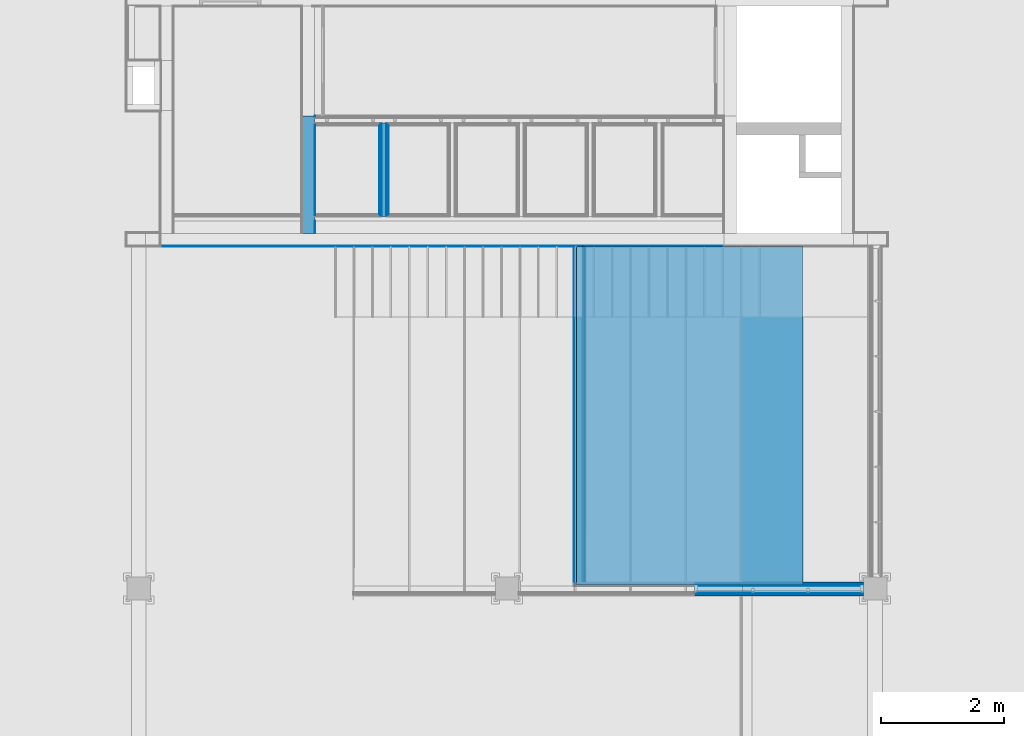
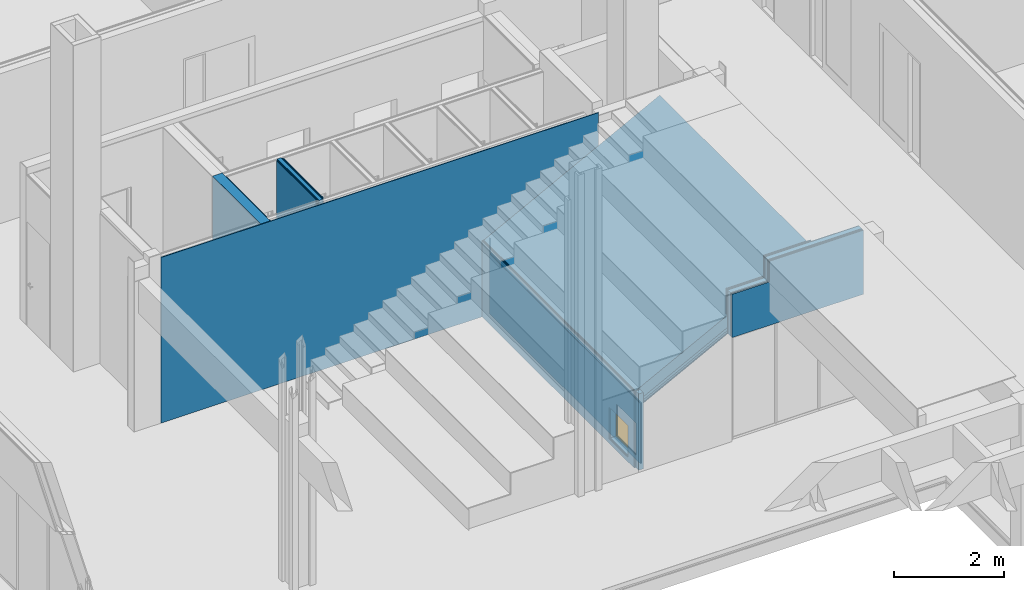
# One storey, part 94 of 139: 32 building element parts, 1 door, 1 opening, 6 elements without a shape of their own.
"""IFC2X3 building model written with IfcOpenShell, lengths in millimetres."""

from ifc_helpers import new_model, entity, si_unit, converted_unit, derived_unit, money_unit, direction, frame, origin_with_axes, place, context, subcontext, project, spatial, faceted_brep, material, type_object, element, fill, aggregate, save


model = new_model("IFC2X3")

# Units and contexts
model_context = context("Model", 3, precision=0.01, world=origin_with_axes(), true_north=direction((0.0, 1.0)))
body_context = subcontext(model_context, "Body", "Model", "MODEL_VIEW")
ifc_project = project(units=[si_unit("LENGTHUNIT", "METRE", prefix="MILLI"), si_unit("AREAUNIT", "SQUARE_METRE"), si_unit("VOLUMEUNIT", "CUBIC_METRE"), converted_unit("PLANEANGLEUNIT", "DEGREE", entity("IfcPlaneAngleMeasure", 0.0174532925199), si_unit("PLANEANGLEUNIT", "RADIAN"), dimensions=[0, 0, 0, 0, 0, 0, 0]), money_unit("EUR"), converted_unit("TIMEUNIT", "Year", entity("IfcTimeMeasure", 31556926.0), si_unit("TIMEUNIT", "SECOND"), dimensions=[0, 0, 1, 0, 0, 0, 0]), si_unit("MASSUNIT", "GRAM", prefix="KILO"), si_unit("THERMODYNAMICTEMPERATUREUNIT", "DEGREE_CELSIUS"), si_unit("LUMINOUSINTENSITYUNIT", "LUMEN"), si_unit("ENERGYUNIT", "JOULE", prefix="MEGA"), derived_unit("THERMALCONDUCTANCEUNIT", [(si_unit("POWERUNIT", "WATT"), 1), (si_unit("LENGTHUNIT", "METRE"), -1), (si_unit("THERMODYNAMICTEMPERATUREUNIT", "KELVIN"), -1)]), derived_unit("SPECIFICHEATCAPACITYUNIT", [(si_unit("ENERGYUNIT", "JOULE"), 1), (si_unit("MASSUNIT", "GRAM", prefix="KILO"), -1), (si_unit("THERMODYNAMICTEMPERATUREUNIT", "KELVIN"), -1)]), derived_unit("MASSDENSITYUNIT", [(si_unit("MASSUNIT", "GRAM", prefix="KILO"), 1), (si_unit("VOLUMEUNIT", "CUBIC_METRE"), -1)])], contexts=[model_context])

# Site, building, storey
site_placement = place(None, origin_with_axes())
site = spatial("IfcSite", under=ifc_project, at=site_placement, Name="Kolde pst 67a", CompositionType="ELEMENT")
building_placement = place(site_placement, origin_with_axes())
building = spatial("IfcBuilding", under=site, at=building_placement, Name="Riigigümnaasium", CompositionType="ELEMENT")
storey_placement = place(building_placement, frame((0.0, 0.0, 4600.0), z_axis=(0.0, 0.0, 1.0), x_axis=(1.0, 0.0, 0.0)))
storey = spatial("IfcBuildingStorey", under=building, at=storey_placement, Name="2. korrus", CompositionType="ELEMENT", Elevation=4600.0)

# Door
door_style = type_object("IfcDoorStyle", Name="Door 25", ConstructionType="NOTDEFINED", OperationType="SINGLE_SWING_RIGHT", ParameterTakesPrecedence=False, Sizeable=False)
wall_1_placement = place(storey_placement, frame((43329.4992509, 45669.9999598, 0.0), z_axis=(0.0, 0.0, 1.0), x_axis=(0.0, -1.0, 0.0)))
opening_placement = place(wall_1_placement, frame((4970.10676851, 0.0, 100.0), z_axis=(0.0, 0.0, 1.0), x_axis=(1.0, 0.0, 0.0)))
door_placement = place(opening_placement, frame((-350.0, 0.0, 0.0), z_axis=(0.0, 0.0, 1.0), x_axis=(1.0, 0.0, 0.0)))
door = element("IfcDoor", 1, at=door_placement, inside=storey, type_object=door_style, Name="Hooldusluuk vastavat SA osale", ObjectType="DOOR", OverallHeight=700.0, OverallWidth=700.0, context=body_context, shape_type="Brep", body=[
    faceted_brep([(30.0, 155.0, 0.0), (30.0, 155.0, 670.0), (30.0, 145.0, 670.0), (30.0, 145.0, 0.0), (18.0, 155.0, 670.0), (18.0, 155.0, 0.0), (18.0, 195.0, 670.0), (0.0, 195.0, 670.0), (0.0, 145.0, 670.0), (0.0, 145.0, 0.0), (0.0, 195.0, 0.0), (18.0, 195.0, 0.0)], [[[0, 1, 2, 3]], [[4, 1, 0, 5]], [[4, 6, 7, 8, 2, 1]], [[3, 2, 8, 9]], [[5, 0, 3, 9, 10, 11]], [[6, 4, 5, 11]], [[6, 11, 10, 7]], [[10, 9, 8, 7]]]),
    faceted_brep([(682.0, 155.0, 670.0), (670.0, 155.0, 670.0), (670.0, 145.0, 670.0), (700.0, 145.0, 670.0), (700.0, 195.0, 670.0), (682.0, 195.0, 670.0), (682.0, 155.0, 0.0), (670.0, 155.0, 0.0), (670.0, 145.0, 0.0), (700.0, 145.0, 0.0), (700.0, 195.0, 0.0), (682.0, 195.0, 0.0)], [[[0, 1, 2, 3, 4, 5]], [[1, 0, 6, 7]], [[1, 7, 8, 2]], [[3, 2, 8, 9]], [[4, 3, 9, 10]], [[11, 5, 4, 10]], [[0, 5, 11, 6]], [[6, 11, 10, 9, 8, 7]]]),
    faceted_brep([(18.0, 195.0, 682.0), (18.0, 195.0, 670.0), (0.0, 195.0, 670.0), (0.0, 195.0, 700.0), (700.0, 195.0, 700.0), (700.0, 195.0, 670.0), (682.0, 195.0, 670.0), (682.0, 195.0, 682.0), (18.0, 155.0, 682.0), (18.0, 155.0, 670.0), (30.0, 155.0, 670.0), (30.0, 145.0, 670.0), (0.0, 145.0, 670.0), (0.0, 145.0, 700.0), (700.0, 145.0, 700.0), (700.0, 145.0, 670.0), (682.0, 155.0, 670.0), (670.0, 145.0, 670.0), (670.0, 155.0, 670.0), (682.0, 155.0, 682.0)], [[[0, 1, 2, 3, 4, 5, 6, 7]], [[1, 0, 8, 9]], [[9, 10, 11, 12, 2, 1]], [[2, 12, 13, 3]], [[3, 13, 14, 4]], [[4, 14, 15, 5]], [[16, 6, 5, 15, 17, 18]], [[7, 6, 16, 19]], [[0, 7, 19, 8]], [[16, 18, 10, 9, 8, 19]], [[10, 18, 17, 11]], [[17, 15, 14, 13, 12, 11]]]),
    faceted_brep([(682.0, 195.0, 0.0), (682.0, 155.0, 0.0), (18.0, 155.0, 0.0), (18.0, 195.0, 0.0), (682.0, 195.0, 682.0), (682.0, 155.0, 682.0), (18.0, 155.0, 682.0), (18.0, 195.0, 682.0)], [[[0, 1, 2, 3]], [[4, 5, 1, 0]], [[1, 5, 6, 2]], [[3, 2, 6, 7]], [[0, 3, 7, 4]], [[7, 6, 5, 4]]]),
])

# Wall, opening
wall_type_1 = type_object("IfcWallType", Name="SS-PK-10/3_vill100+dold+värv 195", PredefinedType="NOTDEFINED")
wall_1 = element("IfcWall", 2, at=wall_1_placement, inside=storey, type_object=wall_type_1, Name="Sisesein")
opening = element("IfcOpeningElement", 3, at=opening_placement, cuts=wall_1, Name="Hooldusluuk vastavat SA osale", context=body_context, shape_type="Brep", body=[
    faceted_brep([(350.0, -195.0, 700.0), (350.0, -195.0, 0.0), (350.0, 390.0, 0.0), (350.0, 390.0, 700.0), (-350.0, -195.0, 700.0), (-350.0, -195.0, 0.0), (-350.0, 390.0, 0.0), (-350.0, 390.0, 700.0)], [[[0, 1, 2, 3]], [[0, 4, 5, 1]], [[1, 5, 6, 2]], [[3, 2, 6, 7]], [[4, 0, 3, 7]], [[5, 4, 7, 6]]]),
])

fill(opening, door)

# Building element part
ifc_material_1 = material(Name="_VIIMISTLUSKIHT - viimistlus vastavalt SA osale")
building_element_part_1_placement = place(wall_1_placement, origin_with_axes())
building_element_part_1 = element("IfcBuildingElementPart", 4, at=building_element_part_1_placement, material=ifc_material_1, Name="_VIIMISTLUSKIHT - viimistlus vastavalt SA osale", context=body_context, shape_type="Brep", body=[
    faceted_brep([(15.0000064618, 175.0, 1342.37595131), (15.0000064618, 195.0, 1352.79616712), (15.0, 195.0, 0.0), (15.0, 175.0, 0.0), (5480.00004217, 195.0, 1352.79616712), (5480.00004217, 175.0, 1342.37595131), (5480.00004217, 195.0, 0.0), (4620.10676851, 195.0, 100.0), (5320.10676851, 195.0, 100.0), (5320.10676851, 195.0, 800.0), (4620.10676851, 195.0, 800.0), (5480.00004217, 175.0, 0.0), (5320.10676851, 175.0, 800.0), (5320.10676851, 175.0, 100.0), (4620.10676851, 175.0, 100.0), (4620.10676851, 175.0, 800.0)], [[[0, 1, 2, 3]], [[4, 1, 0, 5]], [[1, 4, 6, 2], [7, 8, 9, 10]], [[11, 3, 2, 6]], [[5, 0, 3, 11], [12, 13, 14, 15]], [[4, 5, 11, 6]], [[13, 8, 7, 14]], [[12, 9, 8, 13]], [[15, 10, 9, 12]], [[14, 7, 10, 15]]]),
])

ifc_material_2 = material(Name="_KARKASS - eriprofiilkinnitus vastavalt sisemisele plaatviimistlusele")
building_element_part_2_placement = place(wall_1_placement, origin_with_axes())
building_element_part_2 = element("IfcBuildingElementPart", 5, at=building_element_part_2_placement, material=ifc_material_2, Name="_KARKASS - eriprofiilkinnitus vastavalt sisemisele plaatviimistlusele", context=body_context, shape_type="Brep", body=[
    faceted_brep([(15.0000064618, 165.0, 1337.16584341), (15.0000065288, 165.0, 1689.50715738), (0.0, 165.0, 1689.50715738), (0.0, 165.0, 0.0), (5480.00004217, 165.0, 0.0), (5480.00004217, 165.0, 1337.16584341), (5320.10676851, 165.0, 800.0), (5320.10676851, 165.0, 100.0), (4620.10676851, 165.0, 100.0), (4620.10676851, 165.0, 800.0), (15.0000064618, 175.0, 1342.37595131), (15.0000065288, 175.0, 1689.50715738), (0.0, 175.0, 1689.50715738), (0.0, 175.0, 0.0), (5480.00004217, 175.0, 0.0), (5480.00004217, 175.0, 1342.37595131), (5320.10676851, 175.0, 800.0), (5320.10676851, 175.0, 100.0), (4620.10676851, 175.0, 100.0), (4620.10676851, 175.0, 800.0)], [[[0, 1, 2, 3, 4, 5], [6, 7, 8, 9]], [[10, 11, 1, 0]], [[1, 11, 12, 2]], [[13, 3, 2, 12]], [[4, 3, 13, 14]], [[15, 5, 4, 14]], [[15, 10, 0, 5]], [[6, 16, 17, 7]], [[7, 17, 18, 8]], [[8, 18, 19, 9]], [[9, 19, 16, 6]], [[10, 15, 14, 13, 12, 11], [18, 17, 16, 19]]]),
])

ifc_material_3 = material(Name="_PLAATMATERJAL - tuletõkkekipsplaat, Knauf Red GKF või samaväärne")
building_element_part_3_placement = place(wall_1_placement, origin_with_axes())
building_element_part_3 = element("IfcBuildingElementPart", 6, at=building_element_part_3_placement, material=ifc_material_3, Name="_PLAATMATERJAL - tuletõkkekipsplaat, Knauf Red GKF või samaväärne", context=body_context, shape_type="Brep", body=[
    faceted_brep([(15.0000064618, 150.0, 1329.35068155), (15.0000065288, 150.0, 1689.50715738), (0.0, 150.0, 1689.50715738), (0.0, 150.0, 0.0), (5480.00004217, 150.0, 0.0), (5480.00004217, 150.0, 1329.35068155), (5320.10676851, 150.0, 800.0), (5320.10676851, 150.0, 100.0), (4620.10676851, 150.0, 100.0), (4620.10676851, 150.0, 800.0), (15.0000064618, 165.0, 1337.16584341), (15.0000065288, 165.0, 1689.50715738), (0.0, 165.0, 1689.50715738), (0.0, 165.0, 0.0), (5480.00004217, 165.0, 0.0), (5480.00004217, 165.0, 1337.16584341), (5320.10676851, 165.0, 800.0), (5320.10676851, 165.0, 100.0), (4620.10676851, 165.0, 100.0), (4620.10676851, 165.0, 800.0)], [[[0, 1, 2, 3, 4, 5], [6, 7, 8, 9]], [[10, 11, 1, 0]], [[1, 11, 12, 2]], [[13, 3, 2, 12]], [[4, 3, 13, 14]], [[15, 5, 4, 14]], [[15, 10, 0, 5]], [[6, 16, 17, 7]], [[7, 17, 18, 8]], [[8, 18, 19, 9]], [[9, 19, 16, 6]], [[10, 15, 14, 13, 12, 11], [18, 17, 16, 19]]]),
])

ifc_material_4 = material(Name="_PLAATMATERJAL - OSB3 plaat")
building_element_part_4_placement = place(wall_1_placement, origin_with_axes())
building_element_part_4 = element("IfcBuildingElementPart", 7, at=building_element_part_4_placement, material=ifc_material_4, Name="_PLAATMATERJAL - OSB3 plaat", context=body_context, shape_type="Brep", body=[
    faceted_brep([(15.0000064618, 135.0, 1321.5355197), (15.0000065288, 135.0, 1689.50715738), (0.0, 135.0, 1689.50715738), (0.0, 135.0, 0.0), (5480.00004217, 135.0, 0.0), (5480.00004217, 135.0, 1321.5355197), (5320.10676851, 135.0, 800.0), (5320.10676851, 135.0, 100.0), (4620.10676851, 135.0, 100.0), (4620.10676851, 135.0, 800.0), (15.0000064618, 150.0, 1329.35068155), (15.0000065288, 150.0, 1689.50715738), (0.0, 150.0, 1689.50715738), (0.0, 150.0, 0.0), (5480.00004217, 150.0, 0.0), (5480.00004217, 150.0, 1329.35068155), (5320.10676851, 150.0, 800.0), (5320.10676851, 150.0, 100.0), (4620.10676851, 150.0, 100.0), (4620.10676851, 150.0, 800.0)], [[[0, 1, 2, 3, 4, 5], [6, 7, 8, 9]], [[10, 11, 1, 0]], [[1, 11, 12, 2]], [[13, 3, 2, 12]], [[4, 3, 13, 14]], [[15, 5, 4, 14]], [[15, 10, 0, 5]], [[6, 16, 17, 7]], [[7, 17, 18, 8]], [[8, 18, 19, 9]], [[9, 19, 16, 6]], [[10, 15, 14, 13, 12, 11], [18, 17, 16, 19]]]),
])

ifc_material_5 = material(Name="_KARKASS - puitpruss 100x50mm vertikaalne, samm 600mm, vahel mineraalvill, helineeldetegur αw = 1.0, ISOVER ACOUSTIC 100mm või samaväärne")
building_element_part_5_placement = place(wall_1_placement, origin_with_axes())
building_element_part_5 = element("IfcBuildingElementPart", 8, at=building_element_part_5_placement, material=ifc_material_5, Name="_KARKASS - puitpruss 100x50mm vertikaalne, samm 600mm, vahel mineraalvill, helineeldetegur αw = 1.0, ISOVER ACOUSTIC 100mm või samaväärne", context=body_context, shape_type="Brep", body=[
    faceted_brep([(5525.00004256, 40.4999998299, 1272.29999991), (15.0000064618, 40.4999998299, 1272.29999991), (15.0000065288, 40.4999998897, 1689.50715738), (5525.00004242, 40.4999998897, 1689.50715738), (5525.00004256, 135.0, 1321.5355197), (15.0000064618, 135.0, 1321.5355197), (15.0000065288, 135.0, 1689.50715738), (0.0, 135.0, 1689.50715738), (0.0, 35.0, 1689.50715738), (5640.00004217, 35.0, 1689.50715738), (5640.00004217, 135.0, 1689.50715738), (5525.00004242, 135.0, 1689.50715738), (5640.00004217, 135.0, 0.0), (0.0, 135.0, 0.0), (4620.10676851, 135.0, 100.0), (5320.10676851, 135.0, 100.0), (5320.10676851, 135.0, 800.0), (4620.10676851, 135.0, 800.0), (0.0, 35.0, 0.0), (5640.00004217, 35.0, 0.0), (5320.10676851, 35.0, 800.0), (5320.10676851, 35.0, 100.0), (4620.10676851, 35.0, 100.0), (4620.10676851, 35.0, 800.0)], [[[0, 1, 2, 3]], [[4, 5, 1, 0]], [[5, 6, 2, 1]], [[3, 2, 6, 7, 8, 9, 10, 11]], [[4, 0, 3, 11]], [[4, 11, 10, 12, 13, 7, 6, 5], [14, 15, 16, 17]], [[7, 13, 18, 8]], [[19, 9, 8, 18], [20, 21, 22, 23]], [[19, 12, 10, 9]], [[12, 19, 18, 13]], [[21, 15, 14, 22]], [[20, 16, 15, 21]], [[23, 17, 16, 20]], [[22, 14, 17, 23]]]),
])

building_element_part_6_placement = place(wall_1_placement, origin_with_axes())
building_element_part_6 = element("IfcBuildingElementPart", 9, at=building_element_part_6_placement, material=ifc_material_4, Name="_PLAATMATERJAL - OSB3 plaat", context=body_context, shape_type="Brep", body=[
    faceted_brep([(5540.00004486, 20.0, 1689.50715738), (0.0, 20.0, 1689.50715738), (0.0, 20.0, 0.0), (5540.00004217, 20.0, 0.0), (5320.10676851, 20.0, 100.0), (4620.10676851, 20.0, 100.0), (4620.10676851, 20.0, 800.0), (5320.10676851, 20.0, 800.0), (5540.00004487, 35.0, 1689.50715738), (0.0, 35.0, 1689.50715738), (0.0, 35.0, 0.0), (5540.00004217, 35.0, 0.0), (5320.10676851, 35.0, 100.0), (4620.10676851, 35.0, 100.0), (4620.10676851, 35.0, 800.0), (5320.10676851, 35.0, 800.0)], [[[0, 1, 2, 3], [4, 5, 6, 7]], [[8, 9, 1, 0]], [[10, 2, 1, 9]], [[3, 2, 10, 11]], [[8, 0, 3, 11]], [[12, 13, 5, 4]], [[13, 14, 6, 5]], [[14, 15, 7, 6]], [[15, 12, 4, 7]], [[11, 10, 9, 8], [12, 15, 14, 13]]]),
])

building_element_part_7_placement = place(wall_1_placement, origin_with_axes())
building_element_part_7 = element("IfcBuildingElementPart", 10, at=building_element_part_7_placement, material=ifc_material_3, Name="_PLAATMATERJAL - tuletõkkekipsplaat, Knauf Red GKF või samaväärne", context=body_context, shape_type="Brep", body=[
    faceted_brep([(5540.00004485, 5.0, 1689.50715738), (0.0, 5.0, 1689.50715738), (0.0, 5.0, 0.0), (5540.00004217, 5.0, 0.0), (5320.10676851, 5.0, 100.0), (4620.10676851, 5.0, 100.0), (4620.10676851, 5.0, 800.0), (5320.10676851, 5.0, 800.0), (5540.00004486, 20.0, 1689.50715738), (0.0, 20.0, 1689.50715738), (0.0, 20.0, 0.0), (5540.00004217, 20.0, 0.0), (5320.10676851, 20.0, 100.0), (4620.10676851, 20.0, 100.0), (4620.10676851, 20.0, 800.0), (5320.10676851, 20.0, 800.0)], [[[0, 1, 2, 3], [4, 5, 6, 7]], [[8, 9, 1, 0]], [[10, 2, 1, 9]], [[3, 2, 10, 11]], [[8, 0, 3, 11]], [[12, 13, 5, 4]], [[13, 14, 6, 5]], [[14, 15, 7, 6]], [[15, 12, 4, 7]], [[11, 10, 9, 8], [12, 15, 14, 13]]]),
])

building_element_part_8_placement = place(wall_1_placement, origin_with_axes())
building_element_part_8 = element("IfcBuildingElementPart", 11, at=building_element_part_8_placement, material=ifc_material_1, Name="_VIIMISTLUSKIHT - viimistlus vastavalt SA osale", context=body_context, shape_type="Brep", body=[
    faceted_brep([(5540.00004485, 0.0, 1689.50715738), (15.0, 0.0, 1689.50715738), (15.0, 0.0, 0.0), (5540.00004217, 0.0, 0.0), (5320.10676851, 0.0, 100.0), (4620.10676851, 0.0, 100.0), (4620.10676851, 0.0, 800.0), (5320.10676851, 0.0, 800.0), (5540.00004485, 5.0, 1689.50715738), (15.0, 5.0, 1689.50715738), (15.0, 5.0, 0.0), (5540.00004217, 5.0, 0.0), (5320.10676851, 5.0, 100.0), (4620.10676851, 5.0, 100.0), (4620.10676851, 5.0, 800.0), (5320.10676851, 5.0, 800.0)], [[[0, 1, 2, 3], [4, 5, 6, 7]], [[8, 9, 1, 0]], [[10, 2, 1, 9]], [[3, 2, 10, 11]], [[8, 0, 3, 11]], [[12, 13, 5, 4]], [[13, 14, 6, 5]], [[14, 15, 7, 6]], [[15, 12, 4, 7]], [[11, 10, 9, 8], [12, 15, 14, 13]]]),
])

aggregate(wall_1, [building_element_part_1, building_element_part_2, building_element_part_3, building_element_part_4, building_element_part_5, building_element_part_6, building_element_part_7, building_element_part_8])

# Wall, building element part
wall_type_2 = type_object("IfcWallType", Name="SS-RB-20/5_+1 plaat 215", PredefinedType="NOTDEFINED")
wall_2_placement = place(storey_placement, frame((45774.9854607, 45669.9999598, -80.0), z_axis=(0.0, 0.0, 1.0), x_axis=(-1.0, 0.0, 0.0)))
wall_2 = element("IfcWall", 12, at=wall_2_placement, inside=storey, type_object=wall_type_2, Name="Sisesein")
building_element_part_9_placement = place(wall_2_placement, origin_with_axes())
building_element_part_9 = element("IfcBuildingElementPart", 13, at=building_element_part_9_placement, material=ifc_material_1, Name="_VIIMISTLUSKIHT - viimistlus vastavalt SA osale", context=body_context, shape_type="Brep", body=[
    faceted_brep([(9169.98623068, 0.0, 80.0), (9169.98623068, 0.0, 3750.0), (0.0, 0.0, 3750.0), (0.0, 0.0, 80.0), (2270.48620982, 0.0, 80.0), (2270.48620982, 0.0, 1769.50715738), (2440.48620982, 0.0, 1769.50715738), (2440.48620982, 0.0, 80.0), (9169.98623068, 15.0, 80.0), (9169.98623068, 15.0, 3750.0), (0.0, 15.0, 3750.0), (0.0, 15.0, 80.0), (2270.48620982, 15.0, 80.0), (2270.48620982, 15.0, 1769.50715738), (2440.48620982, 15.0, 1769.50715738), (2440.48620982, 15.0, 80.0)], [[[0, 1, 2, 3, 4, 5, 6, 7]], [[8, 9, 1, 0]], [[9, 10, 2, 1]], [[3, 2, 10, 11]], [[12, 4, 3, 11]], [[5, 4, 12, 13]], [[6, 5, 13, 14]], [[14, 15, 7, 6]], [[8, 0, 7, 15]], [[11, 10, 9, 8, 15, 14, 13, 12]]]),
])
aggregate(wall_2, [building_element_part_9])

# Wall, building element parts
wall_type_3 = type_object("IfcWallType", Name="SS-MK-7,5/1_plaaditud 155", PredefinedType="NOTDEFINED")
wall_3_placement = place(storey_placement, frame((40159.9854607, 46179.9999966, 0.0), z_axis=(0.0, 0.0, 1.0), x_axis=(0.0, 1.0, 0.0)))
wall_3 = element("IfcWall", 14, at=wall_3_placement, inside=storey, type_object=wall_type_3, Name="Sisesein")
building_element_part_10_placement = place(wall_3_placement, origin_with_axes())
building_element_part_10 = element("IfcBuildingElementPart", 15, at=building_element_part_10_placement, material=ifc_material_1, Name="_VIIMISTLUSKIHT - viimistlus vastavalt SA osale", context=body_context, shape_type="Brep", body=[
    faceted_brep([(1443.49996421, 0.0, 3380.0), (1443.49996421, -15.0, 3380.0), (1443.49996421, -15.0, 0.0), (1443.49996421, 0.0, 0.0), (0.0, -15.0, 3380.0), (0.0, 0.0, 3380.0), (0.0, -15.0, 0.0), (0.0, 0.0, 0.0)], [[[0, 1, 2, 3]], [[4, 1, 0, 5]], [[1, 4, 6, 2]], [[3, 2, 6, 7]], [[5, 0, 3, 7]], [[4, 5, 7, 6]]]),
])
ifc_material_6 = material(Name="_PLAATMATERJAL - kipsplaat veekindel")
building_element_part_11_placement = place(wall_3_placement, origin_with_axes())
building_element_part_11 = element("IfcBuildingElementPart", 16, at=building_element_part_11_placement, material=ifc_material_6, Name="_PLAATMATERJAL - kipsplaat veekindel", context=body_context, shape_type="Brep", body=[
    faceted_brep([(1458.49996421, -15.0, 3380.0), (1458.49996421, -27.5, 3380.0), (1458.49996421, -27.5, 0.0), (1458.49996421, -15.0, 0.0), (-15.0, -27.5, 3380.0), (-15.0, -15.0, 3380.0), (-15.0, -27.5, 0.0), (-15.0, -15.0, 0.0)], [[[0, 1, 2, 3]], [[4, 1, 0, 5]], [[1, 4, 6, 2]], [[3, 2, 6, 7]], [[5, 0, 3, 7]], [[4, 5, 7, 6]]]),
])
building_element_part_12_placement = place(wall_3_placement, origin_with_axes())
building_element_part_12 = element("IfcBuildingElementPart", 17, at=building_element_part_12_placement, material=ifc_material_6, Name="_PLAATMATERJAL - kipsplaat veekindel", context=body_context, shape_type="Brep", body=[
    faceted_brep([(1470.99996421, -27.5, 3380.0), (1470.99996421, -40.0, 3380.0), (1470.99996421, -40.0, 0.0), (1470.99996421, -27.5, 0.0), (-27.5, -40.0, 3380.0), (-27.5, -27.5, 3380.0), (-27.5, -40.0, 0.0), (-27.5, -27.5, 0.0)], [[[0, 1, 2, 3]], [[4, 1, 0, 5]], [[1, 4, 6, 2]], [[3, 2, 6, 7]], [[5, 0, 3, 7]], [[4, 5, 7, 6]]]),
])
ifc_material_7 = material(Name="_KARKASS - metallkarkass CW 75/50, mineraalvill karkassi vahel")
building_element_part_13_placement = place(wall_3_placement, origin_with_axes())
building_element_part_13 = element("IfcBuildingElementPart", 18, at=building_element_part_13_placement, material=ifc_material_7, Name="_KARKASS - metallkarkass CW 75/50, mineraalvill karkassi vahel", context=body_context, shape_type="Brep", body=[
    faceted_brep([(1483.49996421, -40.0, 3380.0), (1483.49996421, -115.0, 3380.0), (1483.49996421, -115.0, 0.0), (1483.49996421, -40.0, 0.0), (-40.0, -115.0, 3380.0), (-40.0, -40.0, 3380.0), (-40.0, -115.0, 0.0), (-40.0, -40.0, 0.0)], [[[0, 1, 2, 3]], [[4, 1, 0, 5]], [[1, 4, 6, 2]], [[3, 2, 6, 7]], [[5, 0, 3, 7]], [[4, 5, 7, 6]]]),
])
building_element_part_14_placement = place(wall_3_placement, origin_with_axes())
building_element_part_14 = element("IfcBuildingElementPart", 19, at=building_element_part_14_placement, material=ifc_material_6, Name="_PLAATMATERJAL - kipsplaat veekindel", context=body_context, shape_type="Brep", body=[
    faceted_brep([(1470.99996421, -115.0, 3380.0), (1470.99996421, -127.5, 3380.0), (1470.99996421, -127.5, 0.0), (1470.99996421, -115.0, 0.0), (-27.5, -127.5, 3380.0), (-27.5, -115.0, 3380.0), (-27.5, -127.5, 0.0), (-27.5, -115.0, 0.0)], [[[0, 1, 2, 3]], [[4, 1, 0, 5]], [[1, 4, 6, 2]], [[3, 2, 6, 7]], [[5, 0, 3, 7]], [[4, 5, 7, 6]]]),
])
building_element_part_15_placement = place(wall_3_placement, origin_with_axes())
building_element_part_15 = element("IfcBuildingElementPart", 20, at=building_element_part_15_placement, material=ifc_material_6, Name="_PLAATMATERJAL - kipsplaat veekindel", context=body_context, shape_type="Brep", body=[
    faceted_brep([(1458.49996421, -127.5, 3380.0), (1458.49996421, -140.0, 3380.0), (1458.49996421, -140.0, 0.0), (1458.49996421, -127.5, 0.0), (-15.0, -140.0, 3380.0), (-15.0, -127.5, 3380.0), (-15.0, -140.0, 0.0), (-15.0, -127.5, 0.0)], [[[0, 1, 2, 3]], [[4, 1, 0, 5]], [[1, 4, 6, 2]], [[3, 2, 6, 7]], [[5, 0, 3, 7]], [[4, 5, 7, 6]]]),
])
building_element_part_16_placement = place(wall_3_placement, origin_with_axes())
building_element_part_16 = element("IfcBuildingElementPart", 21, at=building_element_part_16_placement, material=ifc_material_1, Name="_VIIMISTLUSKIHT - viimistlus vastavalt SA osale", context=body_context, shape_type="Brep", body=[
    faceted_brep([(1443.49996421, -140.0, 3380.0), (1443.49996421, -155.0, 3380.0), (1443.49996421, -155.0, 0.0), (1443.49996421, -140.0, 0.0), (0.0, -155.0, 3380.0), (0.0, -140.0, 3380.0), (0.0, -155.0, 0.0), (0.0, -140.0, 0.0)], [[[0, 1, 2, 3]], [[4, 1, 0, 5]], [[1, 4, 6, 2]], [[3, 2, 6, 7]], [[5, 0, 3, 7]], [[4, 5, 7, 6]]]),
])
aggregate(wall_3, [building_element_part_10, building_element_part_11, building_element_part_12, building_element_part_13, building_element_part_14, building_element_part_15, building_element_part_16])

wall_type_4 = type_object("IfcWallType", Name="SS-PK-10/1_vill100+2dold 220", PredefinedType="NOTDEFINED")
wall_4_placement = place(storey_placement, frame((48039.9854607, 39969.9999211, 2300.0), z_axis=(0.0, 0.0, 1.0), x_axis=(-1.0, 0.0, 0.0)))
wall_4 = element("IfcWall", 22, at=wall_4_placement, inside=storey, type_object=wall_type_4, Name="Sisesein")
ifc_material_8 = material(Name="_VIIMISTLUSKIHT - Dold plaat vastavalt SA osale")
building_element_part_17_placement = place(wall_4_placement, origin_with_axes())
building_element_part_17 = element("IfcBuildingElementPart", 23, at=building_element_part_17_placement, material=ifc_material_8, Name="_VIIMISTLUSKIHT - Dold plaat vastavalt SA osale", context=body_context, shape_type="Brep", body=[
    faceted_brep([(2750.0, -20.0, 961.25), (1969.98621024, -20.0, 961.25), (1969.98621024, -20.0, 1420.0), (0.0, -20.0, 1420.0), (0.0, -20.0, 0.0), (2750.0, -20.0, 0.0), (2750.0, 1.98313188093e-06, 961.25), (1969.98621024, -1.44940059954e-06, 961.25), (1969.98621024, -1.44940059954e-06, 1420.0), (0.0, 0.0, 1420.0), (0.0, 0.0, 0.0), (2750.0, 0.0, 0.0)], [[[0, 1, 2, 3, 4, 5]], [[1, 0, 6, 7]], [[8, 2, 1, 7]], [[2, 8, 9, 3]], [[4, 3, 9, 10]], [[10, 11, 5, 4]], [[6, 0, 5, 11]], [[7, 6, 11, 10, 9, 8]]]),
])
building_element_part_18_placement = place(wall_4_placement, origin_with_axes())
building_element_part_18 = element("IfcBuildingElementPart", 24, at=building_element_part_18_placement, material=ifc_material_2, Name="_KARKASS - eriprofiilkinnitus vastavalt sisemisele plaatviimistlusele", context=body_context, shape_type="Brep", body=[
    faceted_brep([(2750.0, -30.0, 961.25), (1969.98621024, -30.0, 961.25), (1969.98621024, -30.0, 1420.0), (0.0, -30.0, 1420.0), (0.0, -30.0, 0.0), (2750.0, -30.0, 0.0), (2750.0, -20.0, 961.25), (1969.98621024, -20.0, 961.25), (1969.98621024, -20.0, 1420.0), (0.0, -20.0, 1420.0), (0.0, -20.0, 0.0), (2750.0, -20.0, 0.0)], [[[0, 1, 2, 3, 4, 5]], [[1, 0, 6, 7]], [[8, 2, 1, 7]], [[2, 8, 9, 3]], [[4, 3, 9, 10]], [[10, 11, 5, 4]], [[6, 0, 5, 11]], [[7, 6, 11, 10, 9, 8]]]),
])
building_element_part_19_placement = place(wall_4_placement, origin_with_axes())
building_element_part_19 = element("IfcBuildingElementPart", 25, at=building_element_part_19_placement, material=ifc_material_3, Name="_PLAATMATERJAL - tuletõkkekipsplaat, Knauf Red GKF või samaväärne", context=body_context, shape_type="Brep", body=[
    faceted_brep([(2750.0, -45.0, 961.25), (1969.98621024, -45.0, 961.25), (1969.98621024, -45.0, 1420.0), (0.0, -45.0, 1420.0), (0.0, -45.0, 0.0), (2750.0, -45.0, 0.0), (2750.0, -30.0, 961.25), (1969.98621024, -30.0, 961.25), (1969.98621024, -30.0, 1420.0), (0.0, -30.0, 1420.0), (0.0, -30.0, 0.0), (2750.0, -30.0, 0.0)], [[[0, 1, 2, 3, 4, 5]], [[1, 0, 6, 7]], [[8, 2, 1, 7]], [[2, 8, 9, 3]], [[4, 3, 9, 10]], [[10, 11, 5, 4]], [[6, 0, 5, 11]], [[7, 6, 11, 10, 9, 8]]]),
])
building_element_part_20_placement = place(wall_4_placement, origin_with_axes())
building_element_part_20 = element("IfcBuildingElementPart", 26, at=building_element_part_20_placement, material=ifc_material_3, Name="_PLAATMATERJAL - tuletõkkekipsplaat, Knauf Red GKF või samaväärne", context=body_context, shape_type="Brep", body=[
    faceted_brep([(2750.0, -60.0, 961.25), (1969.98621024, -60.0, 961.25), (1969.98621024, -60.0, 1420.0), (0.0, -60.0, 1420.0), (0.0, -60.0, 0.0), (2750.0, -60.0, 0.0), (2750.0, -45.0, 961.25), (1969.98621024, -45.0, 961.25), (1969.98621024, -45.0, 1420.0), (0.0, -45.0, 1420.0), (0.0, -45.0, 0.0), (2750.0, -45.0, 0.0)], [[[0, 1, 2, 3, 4, 5]], [[1, 0, 6, 7]], [[8, 2, 1, 7]], [[2, 8, 9, 3]], [[4, 3, 9, 10]], [[10, 11, 5, 4]], [[6, 0, 5, 11]], [[7, 6, 11, 10, 9, 8]]]),
])
building_element_part_21_placement = place(wall_4_placement, origin_with_axes())
building_element_part_21 = element("IfcBuildingElementPart", 27, at=building_element_part_21_placement, material=ifc_material_5, Name="_KARKASS - puitpruss 100x50mm vertikaalne, samm 600mm, vahel mineraalvill, helineeldetegur αw = 1.0, ISOVER ACOUSTIC 100mm või samaväärne", context=body_context, shape_type="Brep", body=[
    faceted_brep([(2750.0, -160.0, 961.25), (1969.98621024, -160.0, 961.25), (1969.98621024, -160.0, 1420.0), (0.0, -160.0, 1420.0), (0.0, -160.0, 0.0), (2750.0, -160.0, 0.0), (2750.0, -60.0, 961.25), (1969.98621024, -60.0, 961.25), (1969.98621024, -60.0, 1420.0), (0.0, -60.0, 1420.0), (0.0, -60.0, 0.0), (2750.0, -60.0, 0.0)], [[[0, 1, 2, 3, 4, 5]], [[1, 0, 6, 7]], [[8, 2, 1, 7]], [[2, 8, 9, 3]], [[4, 3, 9, 10]], [[10, 11, 5, 4]], [[6, 0, 5, 11]], [[7, 6, 11, 10, 9, 8]]]),
])
building_element_part_22_placement = place(wall_4_placement, origin_with_axes())
building_element_part_22 = element("IfcBuildingElementPart", 28, at=building_element_part_22_placement, material=ifc_material_3, Name="_PLAATMATERJAL - tuletõkkekipsplaat, Knauf Red GKF või samaväärne", context=body_context, shape_type="Brep", body=[
    faceted_brep([(2750.0, -175.0, 961.25), (1969.98621024, -175.0, 961.25), (1969.98621024, -175.0, 1420.0), (0.0, -175.0, 1420.0), (0.0, -175.0, 0.0), (2750.0, -175.0, 0.0), (2750.0, -160.0, 961.25), (1969.98621024, -160.0, 961.25), (1969.98621024, -160.0, 1420.0), (0.0, -160.0, 1420.0), (0.0, -160.0, 0.0), (2750.0, -160.0, 0.0)], [[[0, 1, 2, 3, 4, 5]], [[1, 0, 6, 7]], [[8, 2, 1, 7]], [[2, 8, 9, 3]], [[10, 4, 3, 9]], [[4, 10, 11, 5]], [[6, 0, 5, 11]], [[7, 6, 11, 10, 9, 8]]]),
])
building_element_part_23_placement = place(wall_4_placement, origin_with_axes())
building_element_part_23 = element("IfcBuildingElementPart", 29, at=building_element_part_23_placement, material=ifc_material_3, Name="_PLAATMATERJAL - tuletõkkekipsplaat, Knauf Red GKF või samaväärne", context=body_context, shape_type="Brep", body=[
    faceted_brep([(2750.0, -190.0, 961.25), (1969.98621024, -190.0, 961.25), (1969.98621024, -190.0, 1420.0), (984.760224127, -190.0, 1420.0), (984.760224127, -190.0, 1265.0), (0.0, -190.0, 1265.0), (0.0, -190.0, 0.0), (2750.0, -190.0, 0.0), (2750.0, -175.0, 961.25), (1969.98621024, -174.999996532, 961.25), (1969.98621024, -174.999998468, 1420.0), (984.760224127, -174.999996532, 1420.0), (984.760224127, -174.999996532, 1265.0), (0.0, -174.999996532, 1265.0), (0.0, -175.0, 0.0), (2750.0, -175.0, 0.0)], [[[0, 1, 2, 3, 4, 5, 6, 7]], [[1, 0, 8, 9]], [[10, 2, 1, 9]], [[2, 10, 11, 3]], [[11, 12, 4, 3]], [[12, 13, 5, 4]], [[6, 5, 13, 14]], [[6, 14, 15, 7]], [[8, 0, 7, 15]], [[9, 8, 15, 14, 13, 12, 11, 10]]]),
])
building_element_part_24_placement = place(wall_4_placement, origin_with_axes())
building_element_part_24 = element("IfcBuildingElementPart", 30, at=building_element_part_24_placement, material=ifc_material_2, Name="_KARKASS - eriprofiilkinnitus vastavalt sisemisele plaatviimistlusele", context=body_context, shape_type="Brep", body=[
    faceted_brep([(2750.0, -200.0, 961.25), (1969.98621024, -200.0, 961.25), (1969.98621024, -200.0, 1420.0), (984.760224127, -200.0, 1420.0), (984.760224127, -200.0, 1265.0), (0.0, -200.0, 1265.0), (0.0, -200.0, 0.0), (2750.0, -200.0, 0.0), (2750.0, -190.0, 961.25), (1969.98621024, -190.0, 961.25), (1969.98621024, -190.0, 1420.0), (984.760224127, -190.0, 1420.0), (984.760224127, -190.0, 1265.0), (0.0, -190.0, 1265.0), (0.0, -190.0, 0.0), (2750.0, -190.0, 0.0)], [[[0, 1, 2, 3, 4, 5, 6, 7]], [[1, 0, 8, 9]], [[10, 2, 1, 9]], [[2, 10, 11, 3]], [[11, 12, 4, 3]], [[12, 13, 5, 4]], [[6, 5, 13, 14]], [[6, 14, 15, 7]], [[8, 0, 7, 15]], [[9, 8, 15, 14, 13, 12, 11, 10]]]),
])
building_element_part_25_placement = place(wall_4_placement, origin_with_axes())
building_element_part_25 = element("IfcBuildingElementPart", 31, at=building_element_part_25_placement, material=ifc_material_8, Name="_VIIMISTLUSKIHT - Dold plaat vastavalt SA osale", context=body_context, shape_type="Brep", body=[
    faceted_brep([(2750.0, -220.0, 961.25), (1969.98621024, -220.0, 961.25), (1969.98621024, -220.0, 1420.0), (984.760224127, -220.0, 1420.0), (984.760224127, -220.0, 1265.0), (0.0, -220.0, 1265.0), (0.0, -220.0, 0.0), (2750.0, -220.0, 0.0), (2750.0, -200.0, 961.25), (1969.98621024, -200.0, 961.25), (1969.98621024, -200.0, 1420.0), (984.760224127, -200.0, 1420.0), (984.760224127, -200.0, 1265.0), (0.0, -200.0, 1265.0), (0.0, -200.0, 0.0), (2750.0, -200.0, 0.0)], [[[0, 1, 2, 3, 4, 5, 6, 7]], [[1, 0, 8, 9]], [[10, 2, 1, 9]], [[2, 10, 11, 3]], [[11, 12, 4, 3]], [[12, 13, 5, 4]], [[6, 5, 13, 14]], [[6, 14, 15, 7]], [[8, 0, 7, 15]], [[9, 8, 15, 14, 13, 12, 11, 10]]]),
])
aggregate(wall_4, [building_element_part_17, building_element_part_18, building_element_part_19, building_element_part_20, building_element_part_21, building_element_part_22, building_element_part_23, building_element_part_24, building_element_part_25])

# Slab, building element parts
slab_type = type_object("IfcSlabType", Name="VL-MK-24/1_ 2. k astmestiku lagi 370", PredefinedType="ROOF")
slab_placement = place(storey_placement, frame((43369.9992509, 44114.5650163, 1272.3), z_axis=(0.0, 0.0, 1.0), x_axis=(0.0, 1.0, 0.0)))
slab = element("IfcSlab", 32, at=slab_placement, inside=storey, type_object=slab_type, Name="Kaldlagi", PredefinedType="ROOF")
ifc_material_9 = material(Name="_SOOJUSTUS - vill")
building_element_part_26_placement = place(slab_placement, origin_with_axes())
building_element_part_26 = element("IfcBuildingElementPart", 33, at=building_element_part_26_placement, material=ifc_material_9, Name="_SOOJUSTUS - vill", context=body_context, shape_type="Brep", body=[
    faceted_brep([(-3969.56509859, 0.0, 417.207157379), (-3969.56509859, -3685.22598569, 2337.24966109), (1540.43493693, -3685.22598569, 2337.24966109), (1540.43493693, 0.0, 417.207157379), (-3969.56509884, 1.10325970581e-07, 146.586298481), (-3969.56509884, -3685.22598592, 2066.62880236), (1540.43493705, -3685.22598592, 2066.62880236), (1540.43493705, 1.10333076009e-07, 146.586298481)], [[[0, 1, 2, 3]], [[0, 4, 5, 1]], [[1, 5, 6, 2]], [[2, 6, 7, 3]], [[3, 7, 4, 0]], [[4, 7, 6, 5]]]),
])
ifc_material_10 = material(Name="_EHITUS - akustiline riputussüsteem AMC EP 400+Sylomer 75, s 1,2m")
building_element_part_27_placement = place(slab_placement, origin_with_axes())
building_element_part_27 = element("IfcBuildingElementPart", 34, at=building_element_part_27_placement, material=ifc_material_10, Name="_EHITUS - akustiline riputussüsteem AMC EP 400+Sylomer 75, s 1,2m", context=body_context, shape_type="Brep", body=[
    faceted_brep([(1540.43493705, 1.10333076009e-07, 146.586298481), (1540.43493708, 1.37916345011e-07, 78.9310837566), (-3969.56509891, 1.37909239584e-07, 78.9310837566), (-3969.56509884, 1.10325970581e-07, 146.586298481), (1540.43493705, -3685.22598592, 2066.62880236), (1540.43493708, -3685.22598597, 1998.97358768), (-3969.56509891, -3685.22598597, 1998.97358768), (-3969.56509884, -3685.22598592, 2066.62880236)], [[[0, 1, 2, 3]], [[4, 5, 1, 0]], [[2, 1, 5, 6]], [[3, 2, 6, 7]], [[3, 7, 4, 0]], [[7, 6, 5, 4]]]),
])
building_element_part_28_placement = place(slab_placement, origin_with_axes())
building_element_part_28 = element("IfcBuildingElementPart", 35, at=building_element_part_28_placement, material=ifc_material_2, Name="_KARKASS - eriprofiilkinnitus vastavalt sisemisele plaatviimistlusele", context=body_context, shape_type="Brep", body=[
    faceted_brep([(1540.43493708, 1.37916345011e-07, 78.9310837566), (1540.4349371, 1.56305191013e-07, 33.8276072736), (-3969.56509895, 1.56305191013e-07, 33.8276072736), (-3969.56509891, 1.37916345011e-07, 78.9310837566), (1540.43493708, -3685.22598597, 1998.97358768), (1540.4349371, -3685.22598601, 1953.87011123), (-3969.56509895, -3685.22598601, 1953.87011123), (-3969.56509891, -3685.22598597, 1998.97358768)], [[[0, 1, 2, 3]], [[4, 5, 1, 0]], [[2, 1, 5, 6]], [[3, 2, 6, 7]], [[3, 7, 4, 0]], [[7, 6, 5, 4]]]),
])
ifc_material_11 = material(Name="_PLAATMATERJAL - erikõva kipsplaat, kinnitamiseks kasutada erikõvale plaadile sobivaid kruve nt XTB 3,9x55mm, Knauf Blue (Diamant) või samaväärne")
building_element_part_29_placement = place(slab_placement, origin_with_axes())
building_element_part_29 = element("IfcBuildingElementPart", 36, at=building_element_part_29_placement, material=ifc_material_11, Name="_PLAATMATERJAL - erikõva kipsplaat, kinnitamiseks kasutada erikõvale plaadile sobivaid kruve nt XTB 3,9x55mm, Knauf Blue (Diamant) või samaväärne", context=body_context, shape_type="Brep", body=[
    faceted_brep([(1540.4349371, 1.56305191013e-07, 33.8276072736), (1540.43493711, 1.63197455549e-07, 16.9138035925), (-3969.56509896, 1.63197455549e-07, 16.9138035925), (-3969.56509895, 1.56305191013e-07, 33.8276072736), (1540.4349371, -3685.22598601, 1953.87011123), (1540.43493711, -3685.22598602, 1936.95630756), (-3969.56509896, -3685.22598602, 1936.95630756), (-3969.56509895, -3685.22598601, 1953.87011123)], [[[0, 1, 2, 3]], [[4, 5, 1, 0]], [[2, 1, 5, 6]], [[3, 2, 6, 7]], [[3, 7, 4, 0]], [[7, 6, 5, 4]]]),
])
building_element_part_30_placement = place(slab_placement, origin_with_axes())
building_element_part_30 = element("IfcBuildingElementPart", 37, at=building_element_part_30_placement, material=ifc_material_11, Name="_PLAATMATERJAL - erikõva kipsplaat, kinnitamiseks kasutada erikõvale plaadile sobivaid kruve nt XTB 3,9x55mm, Knauf Blue (Diamant) või samaväärne", context=body_context, shape_type="Brep", body=[
    faceted_brep([(1540.43493711, 1.63197455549e-07, 16.9138035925), (1540.43493712, 1.70096825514e-07, -8.86215545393e-08), (-3969.56509898, 1.70096825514e-07, -8.86215545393e-08), (-3969.56509896, 1.63197455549e-07, 16.9138035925), (1540.43493711, -3685.22598602, 1936.95630756), (1540.43493712, -3685.22598604, 1920.04250389), (-3969.56509898, -3685.22598604, 1920.04250389), (-3969.56509896, -3685.22598602, 1936.95630756)], [[[0, 1, 2, 3]], [[4, 5, 1, 0]], [[2, 1, 5, 6]], [[3, 2, 6, 7]], [[3, 7, 4, 0]], [[7, 6, 5, 4]]]),
])
aggregate(slab, [building_element_part_26, building_element_part_27, building_element_part_28, building_element_part_29, building_element_part_30])

# Wall, building element parts
wall_type_5 = type_object("IfcWallType", Name="SS-RB-20/2_+2 plaat 230", PredefinedType="NOTDEFINED")
wall_5_placement = place(storey_placement, frame((39109.8305113, 45669.9999598, -80.0), z_axis=(0.0, 0.0, 1.0), x_axis=(0.0, 1.0, 0.0)))
wall_5 = element("IfcWall", 38, at=wall_5_placement, inside=storey, type_object=wall_type_5, Name="Sisesein")
ifc_material_12 = material(Name="_KANDETARIND - monteeritav raudbetoon vastavalt EK osale")
building_element_part_31_placement = place(wall_5_placement, origin_with_axes())
building_element_part_31 = element("IfcBuildingElementPart", 39, at=building_element_part_31_placement, material=ifc_material_12, Name="_KANDETARIND - monteeritav raudbetoon vastavalt EK osale", context=body_context, shape_type="Brep", body=[
    faceted_brep([(2108.50000096, 200.0, 3460.0), (2108.50000096, 0.0, 3460.0), (2108.50000096, 0.0, 0.0), (2108.50000096, 200.0, 0.0), (200.0, 0.0, 3460.0), (200.0, 200.0, 3460.0), (200.0, 0.0, 0.0), (200.0, 200.0, 0.0)], [[[0, 1, 2, 3]], [[4, 1, 0, 5]], [[1, 4, 6, 2]], [[2, 6, 7, 3]], [[5, 0, 3, 7]], [[4, 5, 7, 6]]]),
])
building_element_part_32_placement = place(wall_5_placement, origin_with_axes())
building_element_part_32 = element("IfcBuildingElementPart", 40, at=building_element_part_32_placement, material=ifc_material_1, Name="_VIIMISTLUSKIHT - viimistlus vastavalt SA osale", context=body_context, shape_type="Brep", body=[
    faceted_brep([(404.000036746, 0.0, 3460.0), (404.000036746, -15.0, 3460.0), (404.000036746, -15.0, 80.0), (404.000036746, 0.0, 80.0), (200.0, -15.0, 3460.0), (200.0, 0.0, 3460.0), (200.0, -15.0, 80.0), (200.0, 0.0, 80.0)], [[[0, 1, 2, 3]], [[4, 1, 0, 5]], [[1, 4, 6, 2]], [[3, 2, 6, 7]], [[5, 0, 3, 7]], [[4, 5, 7, 6]]]),
    faceted_brep([(2108.50000096, 0.0, 3460.0), (2108.50000096, -15.0, 3460.0), (2108.50000096, -15.0, 80.0), (2108.50000096, 0.0, 80.0), (2093.50000096, -15.0, 3460.0), (2093.50000096, 0.0, 3460.0), (2093.50000096, -15.0, 80.0), (2093.50000096, 0.0, 80.0)], [[[0, 1, 2, 3]], [[4, 1, 0, 5]], [[1, 4, 6, 2]], [[3, 2, 6, 7]], [[5, 0, 3, 7]], [[4, 5, 7, 6]]]),
    faceted_brep([(1968.50000096, 0.0, 3460.0), (1968.50000096, -15.0, 3460.0), (1968.50000096, -15.0, 80.0), (1968.50000096, 0.0, 80.0), (495.000036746, -15.0, 3460.0), (495.000036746, 0.0, 3460.0), (495.000036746, -15.0, 80.0), (495.000036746, 0.0, 80.0)], [[[0, 1, 2, 3]], [[4, 1, 0, 5]], [[1, 4, 6, 2]], [[3, 2, 6, 7]], [[5, 0, 3, 7]], [[4, 5, 7, 6]]]),
])
aggregate(wall_5, [building_element_part_31, building_element_part_32])

save(model, "model.ifc")
